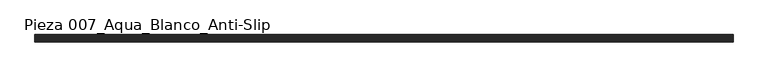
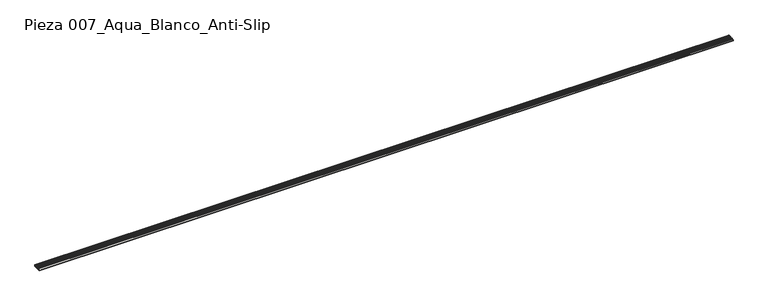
"""IFC4 building model written with IfcOpenShell, lengths in millimetres: slab geometry, ROSA GRES_007 : Pieza 007_Aqua_Blanco_Anti-Slip."""

from ifc_helpers import new_model, si_unit, point, frame, frame_2d, origin, place, context, project, spatial, polyline, circle_curve, trimmed, segment, composite_curve, outline, extrude, source, transform, mapped, element, save


def pieza_007_aqua_blanco_anti_slip_1145e67a(model_context):
    return source(origin(), model_context, "Body", "SweptSolid", [
        extrude(outline(composite_curve([segment(polyline([(14.3742659, 174.3159971), (0.6896004, 173.202129), (-0.0710994, 182.547869)]), True, "CONTINUOUS"), segment(trimmed(circle_curve(frame_2d((15.1536138, 183.7870899)), 15.2750633), [point((-0.0710994, 182.547869))], [point((12.7748841, 198.875801))], False, "CARTESIAN"), True, "CONTINUOUS"), segment(polyline([(12.7748841, 198.875801), (16.9364731, 199.1796191)]), True, "CONTINUOUS"), segment(trimmed(circle_curve(frame_2d((20.3008643, 202.7650351)), 4.9167404), [point((16.9364731, 199.1796191))], [point((24.7247274, 200.6193952))], True, "CARTESIAN"), True, "CONTINUOUS"), segment(trimmed(circle_curve(frame_2d((27.3971937, 201.142641)), 2.7232081), [point((24.7247274, 200.6193952))], [point((29.9345538, 200.1538709))], True, "CARTESIAN"), True, "CONTINUOUS"), segment(polyline([(29.9345538, 200.1538709), (33.8762309, 200.4746837), (37.1820416, 176.172444)]), True, "CONTINUOUS"), segment(trimmed(circle_curve(frame_2d((25.9545763, 173.0767428)), 11.6464304), [point((37.1820416, 176.172444))], [point((14.3742659, 174.3159971))], True, "CARTESIAN"), True, "CONTINUOUS")], self_intersect=False)), frame((0.0, 0.0, 0.0), z_axis=(1.0, 0.0, 0.0), x_axis=(0.0, 1.0, 0.0)), (0.0, 0.0, 1.0), 11456.9797845),
        extrude(outline(composite_curve([segment(polyline([(71.8498608, 178.9942432), (37.1820416, 176.172444), (33.8762309, 200.4746837)]), True, "CONTINUOUS"), segment(trimmed(circle_curve(frame_2d((106.9597263, 233.2212806)), 80.084561), [point((33.8762309, 200.4746837))], [point((40.9402045, 187.8896178))], True, "CARTESIAN"), True, "CONTINUOUS"), segment(trimmed(circle_curve(frame_2d((43.5817022, 189.3117604)), 3.0), [point((40.9402045, 187.8896178))], [point((43.8250834, 186.3216491))], True, "CARTESIAN"), True, "CONTINUOUS"), segment(polyline([(43.8250834, 186.3216491), (61.867532, 187.7902205)]), True, "CONTINUOUS"), segment(trimmed(circle_curve(frame_2d((57.0579989, 199.0821231)), 12.2734948), [point((61.867532, 187.7902205))], [point((69.3023399, 198.236672))], True, "CARTESIAN"), True, "CONTINUOUS"), segment(polyline([(69.3023399, 198.236672), (69.6579726, 203.3871621), (73.3820924, 203.6902881)]), True, "CONTINUOUS"), segment(trimmed(circle_curve(frame_2d((76.8218788, 206.722806)), 4.5856619), [point((73.3820924, 203.6902881))], [point((81.0271834, 204.8942251))], True, "CARTESIAN"), True, "CONTINUOUS"), segment(trimmed(circle_curve(frame_2d((84.8780848, 207.3839748)), 4.5856619), [point((81.0271834, 204.8942251))], [point((89.0833894, 205.555394))], True, "CARTESIAN"), True, "CONTINUOUS"), segment(trimmed(circle_curve(frame_2d((92.9342908, 208.0451437)), 4.5856619), [point((89.0833894, 205.555394))], [point((97.1292049, 206.1928503))], True, "CARTESIAN"), True, "CONTINUOUS"), segment(trimmed(circle_curve(frame_2d((100.9933064, 209.1504161)), 4.8660534), [point((97.1292049, 206.1928503))], [point((105.2742048, 206.836894))], True, "CARTESIAN"), True, "CONTINUOUS"), segment(trimmed(circle_curve(frame_2d((109.1074243, 209.7932705)), 4.8408403), [point((105.2742048, 206.836894))], [point((113.0660814, 207.0070959))], True, "CARTESIAN"), True, "CONTINUOUS"), segment(polyline([(113.0660814, 207.0070959), (115.3491545, 207.1930072), (115.5338707, 204.9236084), (117.4809059, 205.0820876), (119.2900344, 182.8556525), (108.342302, 181.9645582)]), True, "CONTINUOUS"), segment(trimmed(circle_curve(frame_2d((91.1625174, 167.3774726)), 22.5372595), [point((108.342302, 181.9645582))], [point((71.8498608, 178.9942432))], True, "CARTESIAN"), True, "CONTINUOUS")], self_intersect=False)), frame((0.0, 0.0, 0.0), z_axis=(1.0, 0.0, 0.0), x_axis=(0.0, 1.0, 0.0)), (0.0, 0.0, 1.0), 11456.9797845),
    ])


if __name__ == "__main__":
    model = new_model("IFC4")
    model_context = context("Model", 3, world=origin())
    ifc_project = project(units=[si_unit("LENGTHUNIT", "METRE", prefix="MILLI")], contexts=[model_context])
    site = spatial("IfcSite", under=ifc_project)
    building = spatial("IfcBuilding", under=site)
    placement = place(None, origin())
    pieza_007_aqua_blanco_anti_slip_shape = pieza_007_aqua_blanco_anti_slip_1145e67a(model_context)
    element("IfcSlab", 1, ObjectType="ROSA GRES_007 : Pieza 007_Aqua_Blanco_Anti-Slip", at=placement, inside=building, context=model_context, shape_type="MappedRepresentation", body=[
        mapped(pieza_007_aqua_blanco_anti_slip_shape, transform((0.0, 0.0, 0.0), x_axis=(1.0, 0.0, 0.0), y_axis=(0.0, 1.0, 0.0), z_axis=(0.0, 0.0, 1.0))),
    ])
    save(model, "model.ifc")
